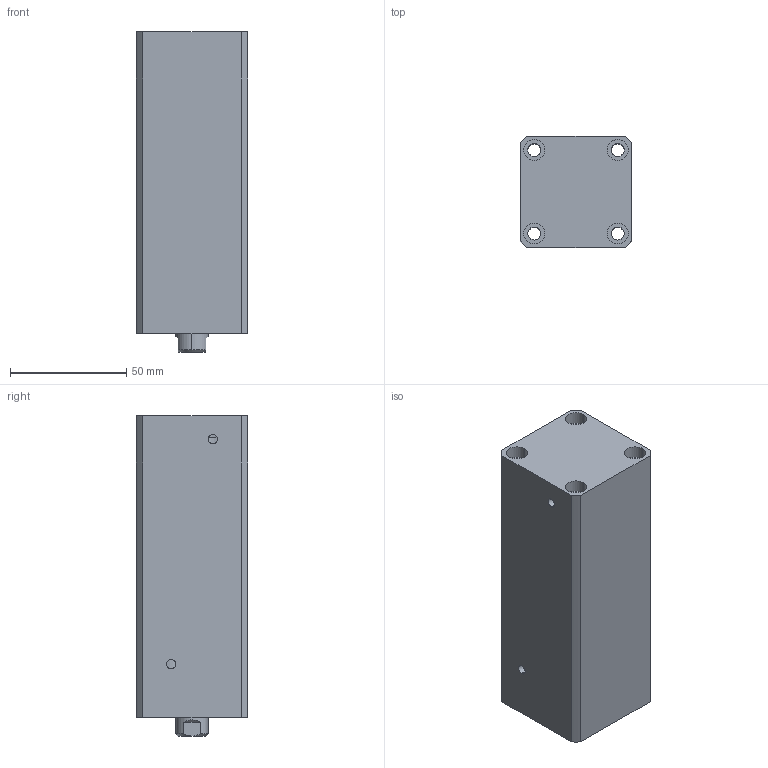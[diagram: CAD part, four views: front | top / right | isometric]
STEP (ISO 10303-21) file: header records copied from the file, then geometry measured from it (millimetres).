
FILE_DESCRIPTION (( 'STEP AP214' ), '1' );
FILE_NAME ('chtb-sdma25x85n_asm.STEP', '2018-05-22T07:12:45', ( 'Windows' ), ( 'Microsoft' ), 'SwSTEP 2.0', 'SolidWorks 2015', '' );
FILE_SCHEMA (( 'AUTOMOTIVE_DESIGN' ));
Length unit declared in the file: millimetre
Products named in the file (4): CHTB-SDMA25X85NHSG; CHTB-SDMA25X85NBT; CHTB-25QG; chtb-sdma25x85n_asm
Assembly tree (3 placements, depth 2):
  chtb-sdma25x85n_asm
    CHTB-25QG
    CHTB-SDMA25X85NBT
    CHTB-SDMA25X85NHSG
Bounding box: 48 x 48 x 138 mm (x, y, z)
Volume: 251894.1 mm3; surface area: 62817.6 mm2
Topology: 3 solids, 3 shells, 142 faces, 379 edges, 257 vertices
Faces by surface type: cylinder 89, plane 34, bspline 10, cone 9
Entity records: 8020 total; most frequent: CARTESIAN_POINT 4393, ORIENTED_EDGE 746, DIRECTION 661, EDGE_CURVE 373, AXIS2_PLACEMENT_3D 272, VERTEX_POINT 257, EDGE_LOOP 180, FACE_OUTER_BOUND 142
